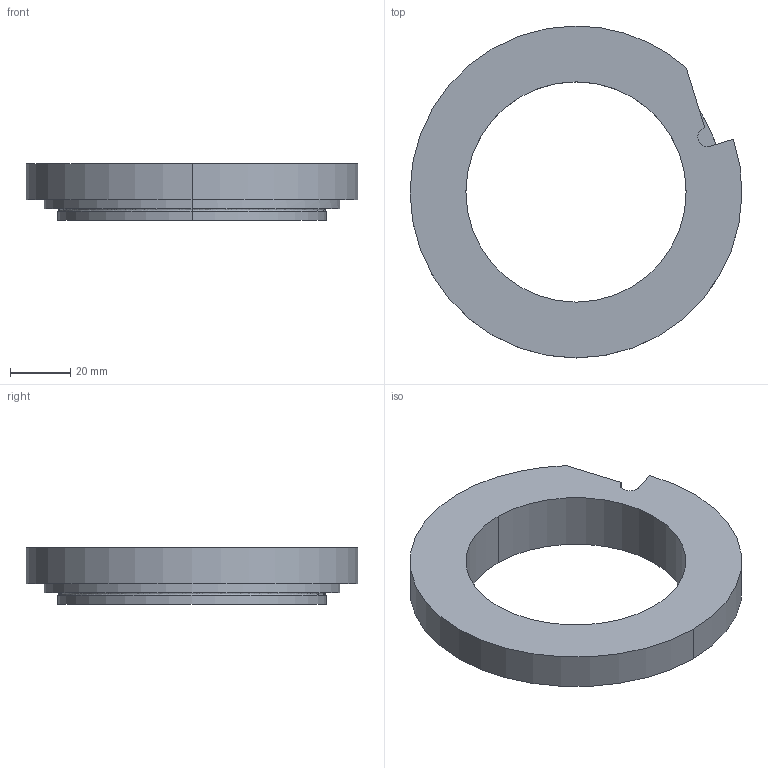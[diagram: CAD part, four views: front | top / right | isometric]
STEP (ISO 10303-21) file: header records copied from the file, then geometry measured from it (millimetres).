
FILE_DESCRIPTION (( 'STEP AP214' ), '1' );
FILE_NAME ('P-50iB Wrist Faceplate.STEP', '2021-02-18T02:13:56', ( '' ), ( '' ), 'SwSTEP 2.0', 'SolidWorks 2019', '' );
FILE_SCHEMA (( 'AUTOMOTIVE_DESIGN' ));
Length unit declared in the file: inch
Products named in the file (1): P-50iB Wrist Faceplate
Bounding box: 109.99 x 110 x 18.85 mm (x, y, z)
Volume: 79713.3 mm3; surface area: 21102 mm2
Topology: 1 solids, 1 shells, 20 faces, 47 edges, 30 vertices
Faces by surface type: cylinder 11, plane 7, bspline 2
Entity records: 881 total; most frequent: CARTESIAN_POINT 362, DIRECTION 109, ORIENTED_EDGE 94, EDGE_CURVE 47, AXIS2_PLACEMENT_3D 45, VERTEX_POINT 30, CIRCLE 26, EDGE_LOOP 23
